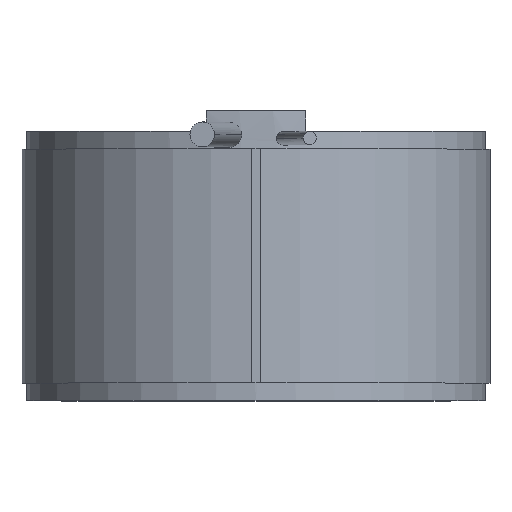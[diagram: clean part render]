
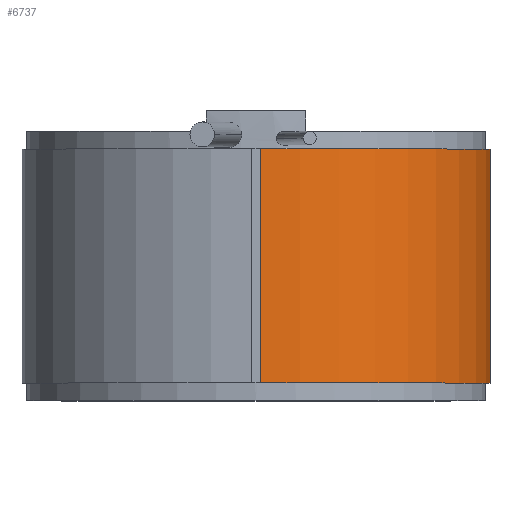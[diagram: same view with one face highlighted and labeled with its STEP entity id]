
A CAD part, top view. The second image highlights one B-rep face of the part: STEP entity #6737.
In plain terms, the highlighted cylindrical face has radius 80 mm (diameter 160 mm), a partial arc.
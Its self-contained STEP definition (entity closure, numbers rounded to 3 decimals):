
#157 = CARTESIAN_POINT ( 'NONE',  ( 136.651, 174.239, 430.605 ) ) ;
#225 = AXIS2_PLACEMENT_3D ( 'NONE', #4657, #3467, #2166 ) ;
#249 = VERTEX_POINT ( 'NONE', #6080 ) ;
#266 = DIRECTION ( 'NONE',  ( 0., 0., -1. ) ) ;
#431 = CIRCLE ( 'NONE', #3456, 80. ) ;
#491 = ORIENTED_EDGE ( 'NONE', *, *, #7251, .T. ) ;
#708 = EDGE_LOOP ( 'NONE', ( #7542, #1217, #491, #4380 ) ) ;
#772 = CARTESIAN_POINT ( 'NONE',  ( 136.651, 174.239, 230.615 ) ) ;
#905 = CARTESIAN_POINT ( 'NONE',  ( 66.619, 135.567, 150.615 ) ) ;
#959 = VERTEX_POINT ( 'NONE', #2814 ) ;
#1217 = ORIENTED_EDGE ( 'NONE', *, *, #6618, .F. ) ;
#1370 = AXIS2_PLACEMENT_3D ( 'NONE', #2747, #2203, #7065 ) ;
#1574 = VECTOR ( 'NONE', #4147, 1000. ) ;
#1733 = CARTESIAN_POINT ( 'NONE',  ( 68.144, 55.582, 430.615 ) ) ;
#2166 = DIRECTION ( 'NONE',  ( -1., 0., 0. ) ) ;
#2203 = DIRECTION ( 'NONE',  ( 0., 0., -1. ) ) ;
#2725 = DIRECTION ( 'NONE',  ( 1., 0., 0. ) ) ;
#2747 = CARTESIAN_POINT ( 'NONE',  ( 66.619, 135.567, 230.615 ) ) ;
#2755 = FACE_OUTER_BOUND ( 'NONE', #708, .T. ) ;
#2814 = CARTESIAN_POINT ( 'NONE',  ( 136.651, 174.239, 150.615 ) ) ;
#2894 = VECTOR ( 'NONE', #266, 1000. ) ;
#3320 = DIRECTION ( 'NONE',  ( 0., 0., -1. ) ) ;
#3377 = EDGE_CURVE ( 'NONE', #959, #249, #431, .T. ) ;
#3456 = AXIS2_PLACEMENT_3D ( 'NONE', #905, #3320, #2725 ) ;
#3467 = DIRECTION ( 'NONE',  ( 0., 0., 1. ) ) ;
#3472 = VERTEX_POINT ( 'NONE', #4741 ) ;
#3483 = EDGE_CURVE ( 'NONE', #3472, #249, #5449, .T. ) ;
#4008 = VERTEX_POINT ( 'NONE', #772 ) ;
#4147 = DIRECTION ( 'NONE',  ( 0., 0., -1. ) ) ;
#4380 = ORIENTED_EDGE ( 'NONE', *, *, #3483, .T. ) ;
#4657 = CARTESIAN_POINT ( 'NONE',  ( 66.619, 135.567, 230.615 ) ) ;
#4741 = CARTESIAN_POINT ( 'NONE',  ( 68.144, 55.582, 230.615 ) ) ;
#5216 = CYLINDRICAL_SURFACE ( 'NONE', #225, 80. ) ;
#5449 = LINE ( 'NONE', #1733, #1574 ) ;
#5694 = LINE ( 'NONE', #157, #2894 ) ;
#6080 = CARTESIAN_POINT ( 'NONE',  ( 68.144, 55.582, 150.615 ) ) ;
#6618 = EDGE_CURVE ( 'NONE', #4008, #959, #5694, .T. ) ;
#6737 = ADVANCED_FACE ( 'NONE', ( #2755 ), #5216, .T. ) ;
#6816 = CIRCLE ( 'NONE', #1370, 80. ) ;
#7065 = DIRECTION ( 'NONE',  ( 1., 0., 0. ) ) ;
#7251 = EDGE_CURVE ( 'NONE', #4008, #3472, #6816, .T. ) ;
#7542 = ORIENTED_EDGE ( 'NONE', *, *, #3377, .F. ) ;
